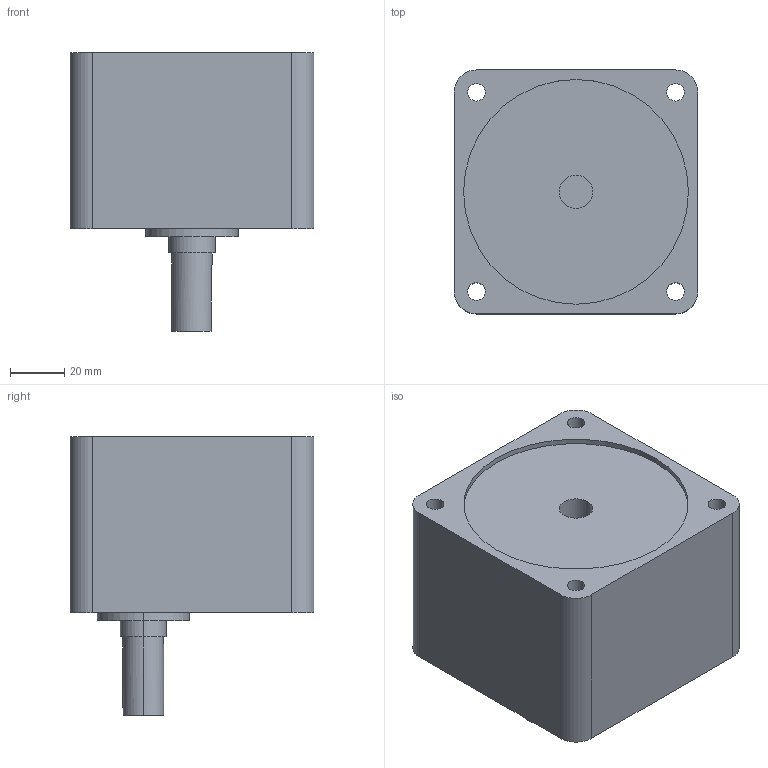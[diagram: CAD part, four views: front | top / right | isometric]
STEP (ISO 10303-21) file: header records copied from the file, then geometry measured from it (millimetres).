
FILE_DESCRIPTION (( 'STEP AP203' ), '1' );
FILE_NAME ('A1897.step', '2024-04-25T09:39:49', ( '' ), ( '' ), 'SwSTEP 2.0', 'SolidWorks 2023', '' );
FILE_SCHEMA (( 'CONFIG_CONTROL_DESIGN' ));
Length unit declared in the file: millimetre
Products named in the file (1): A1897
Bounding box: 90 x 90 x 103 mm (x, y, z)
Volume: 507279.9 mm3; surface area: 47528.3 mm2
Topology: 1 solids, 1 shells, 49 faces, 118 edges, 77 vertices
Faces by surface type: cylinder 29, plane 16, cone 4
Entity records: 1562 total; most frequent: DIRECTION 275, CARTESIAN_POINT 273, ORIENTED_EDGE 232, EDGE_CURVE 116, AXIS2_PLACEMENT_3D 111, VERTEX_POINT 77, EDGE_LOOP 65, CIRCLE 61
